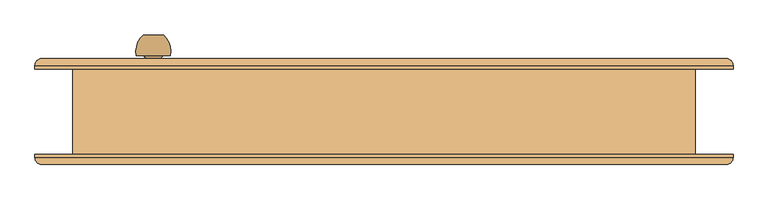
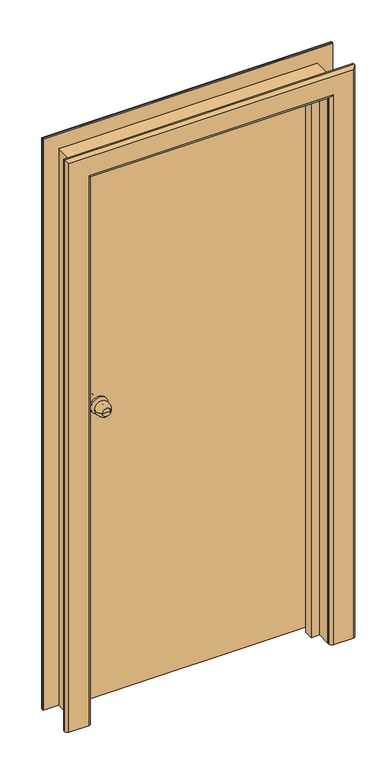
"""IFC4 building model written with IfcOpenShell, lengths in millimetres: door geometry, Внутренняя дверь 1-Навесная - 6629-88 : ДГ 21-9  ГОСТ 6629-88."""

from ifc_helpers import new_model, si_unit, point, frame, origin, place, context, project, spatial, polyline, circle_curve, ellipse_curve, trimmed, outline, extrude, faceted_brep, source, transform, mapped, element, save
from ifc_brep_helpers import plane_surface, cylinder_surface, revolved_surface, advanced_brep


def door_276684d3(model_context):
    return source(origin(), model_context, "Body", "SolidModel", [
        advanced_brep(
        [(-322.0, 112.5, 1100.0), (-337.0, 112.5, 1100.0), (-352.0, 112.5, 1100.0), (-362.0, 82.5, 1100.0), (-312.0, 82.5, 1100.0), (-355.0, 82.5, 1100.0), (-319.0, 82.5, 1100.0), (-347.0, 74.5, 1100.0), (-327.0, 74.5, 1100.0), (-347.0, 68.5, 1100.0), (-327.0, 68.5, 1100.0), (-367.0, 68.5, 1100.0), (-307.0, 68.5, 1100.0), (-367.0, 62.5, 1100.0), (-307.0, 62.5, 1100.0)],
        [
            (0, 1),
            (1, 2),
            (2, 0, circle_curve(frame((-337.0, 112.5, 1100.0), z_axis=(0.0, 1.0, 0.0), x_axis=(-1.0, 0.0, 0.0)), 15.0)),
            (0, 2, circle_curve(frame((-337.0, 112.5, 1100.0), z_axis=(0.0, 1.0, 0.0), x_axis=(-1.0, 0.0, 0.0)), 15.0)),
            (2, 3, circle_curve(frame((-327.3773735, 87.6257912, 1100.0), z_axis=(0.0, 0.0, 1.0), x_axis=(1.0, 0.0, 0.0)), 35.0)),
            (3, 4, circle_curve(frame((-337.0, 82.5, 1100.0), z_axis=(0.0, 1.0, 0.0), x_axis=(-1.0, 0.0, 0.0)), 25.0)),
            (4, 0, circle_curve(frame((-346.6226265, 87.6257912, 1100.0), z_axis=(0.0, 0.0, 1.0), x_axis=(-1.0, 0.0, 0.0)), 35.0)),
            (4, 3, circle_curve(frame((-337.0, 82.5, 1100.0), z_axis=(0.0, 1.0, 0.0), x_axis=(-1.0, 0.0, 0.0)), 25.0)),
            (3, 5),
            (5, 6, circle_curve(frame((-337.0, 82.5, 1100.0), z_axis=(0.0, 1.0, 0.0), x_axis=(-1.0, 0.0, 0.0)), 18.0)),
            (6, 4),
            (6, 5, circle_curve(frame((-337.0, 82.5, 1100.0), z_axis=(0.0, 1.0, 0.0), x_axis=(-1.0, 0.0, 0.0)), 18.0)),
            (5, 7, circle_curve(frame((-355.0, 74.5, 1100.0), z_axis=(0.0, 0.0, -1.0), x_axis=(1.0, 0.0, 0.0)), 8.0)),
            (7, 8, circle_curve(frame((-337.0, 74.5, 1100.0), z_axis=(0.0, 1.0, 0.0), x_axis=(-1.0, 0.0, 0.0)), 10.0)),
            (8, 6, circle_curve(frame((-319.0, 74.5, 1100.0), z_axis=(0.0, 0.0, -1.0), x_axis=(-1.0, 0.0, 0.0)), 8.0)),
            (8, 7, circle_curve(frame((-337.0, 74.5, 1100.0), z_axis=(0.0, 1.0, 0.0), x_axis=(-1.0, 0.0, 0.0)), 10.0)),
            (7, 9),
            (9, 10, circle_curve(frame((-337.0, 68.5, 1100.0), z_axis=(0.0, 1.0, 0.0), x_axis=(-1.0, 0.0, 0.0)), 10.0)),
            (10, 8),
            (10, 9, circle_curve(frame((-337.0, 68.5, 1100.0), z_axis=(0.0, 1.0, 0.0), x_axis=(-1.0, 0.0, 0.0)), 10.0)),
            (11, 12, circle_curve(frame((-337.0, 68.5, 1100.0), z_axis=(0.0, 1.0, 0.0), x_axis=(1.0, 0.0, 0.0)), 30.0)),
            (12, 11, circle_curve(frame((-337.0, 68.5, 1100.0), z_axis=(0.0, 1.0, 0.0), x_axis=(1.0, 0.0, 0.0)), 30.0)),
            (13, 14, circle_curve(frame((-337.0, 62.5, 1100.0), z_axis=(0.0, -1.0, 0.0), x_axis=(1.0, 0.0, 0.0)), 30.0)),
            (14, 13, circle_curve(frame((-337.0, 62.5, 1100.0), z_axis=(0.0, -1.0, 0.0), x_axis=(1.0, 0.0, 0.0)), 30.0)),
            (12, 14),
            (13, 11),
        ],
        [
            plane_surface(frame((-337.0, 112.5, 1100.0), z_axis=(0.0, 1.0, 0.0), x_axis=(-1.0, 0.0, 0.0))),
            revolved_surface(trimmed(ellipse_curve(frame((-327.3773735, 87.6257912, 1100.0), z_axis=(0.0, 0.0, 1.0), x_axis=(1.0, 0.0, 0.0)), 35.0, 35.0), [point((-352.0, 112.5, 1100.0))], [point((-362.0, 82.5, 1100.0))], True, "CARTESIAN"), (-337.0, 142.5, 1100.0), (0.0, -1.0, 0.0)),
            plane_surface(frame((-337.0, 82.5, 1100.0), z_axis=(0.0, -1.0, 0.0), x_axis=(-1.0, 0.0, 0.0))),
            revolved_surface(trimmed(ellipse_curve(frame((-355.0, 74.5, 1100.0), z_axis=(0.0, 0.0, -1.0), x_axis=(1.0, 0.0, 0.0)), 8.0, 8.0), [point((-355.0, 82.5, 1100.0))], [point((-347.0, 74.5, 1100.0))], True, "CARTESIAN"), (-337.0, 142.5, 1100.0), (0.0, -1.0, 0.0)),
            cylinder_surface(frame((-337.0, 142.5, 1100.0), z_axis=(0.0, -1.0, 0.0), x_axis=(-1.0, 0.0, 0.0)), 10.0),
            plane_surface(frame((-307.0, 68.5, 1100.0), z_axis=(0.0, 1.0, 0.0), x_axis=(0.0, 0.0, 1.0))),
            plane_surface(frame((-307.0, 62.5, 1100.0), z_axis=(0.0, -1.0, 0.0), x_axis=(0.0, 0.0, -1.0))),
            cylinder_surface(frame((-337.0, 62.5, 1100.0), z_axis=(0.0, 1.0, 0.0), x_axis=(1.0, 0.0, 0.0)), 30.0),
        ],
        [
            (0, [[1, 2, 3]]),
            (0, [[-1, 4, -2]]),
            (1, [[5, 6, 7, -3]]),
            (1, [[-7, 8, -5, -4]]),
            (2, [[9, 10, 11, -6]]),
            (2, [[-11, 12, -9, -8]]),
            (3, [[13, 14, 15, -10]]),
            (3, [[-15, 16, -13, -12]]),
            (4, [[17, 18, 19, -14]]),
            (4, [[-19, 20, -17, -16]]),
            (5, [[21, 22], [-20, -18]]),
            (6, [[23, 24]]),
            (7, [[25, -23, 26, -22]]),
            (7, [[-26, -24, -25, -21]]),
        ],
    ),
        advanced_brep(
        [(-352.0, -24.5, 1100.0), (-337.0, -24.5, 1100.0), (-322.0, -24.5, 1100.0), (-312.0, 5.5, 1100.0), (-362.0, 5.5, 1100.0), (-319.0, 5.5, 1100.0), (-355.0, 5.5, 1100.0), (-327.0, 13.5, 1100.0), (-347.0, 13.5, 1100.0), (-327.0, 19.5, 1100.0), (-347.0, 19.5, 1100.0), (-307.0, 19.5, 1100.0), (-367.0, 19.5, 1100.0), (-307.0, 25.5, 1100.0), (-367.0, 25.5, 1100.0)],
        [
            (0, 1),
            (1, 2),
            (2, 0, circle_curve(frame((-337.0, -24.5, 1100.0), z_axis=(0.0, -1.0, 0.0), x_axis=(1.0, 0.0, 0.0)), 15.0)),
            (0, 2, circle_curve(frame((-337.0, -24.5, 1100.0), z_axis=(0.0, -1.0, 0.0), x_axis=(1.0, 0.0, 0.0)), 15.0)),
            (2, 3, circle_curve(frame((-346.6226265, 0.3742088, 1100.0), z_axis=(0.0, 0.0, 1.0), x_axis=(-1.0, 0.0, 0.0)), 35.0)),
            (3, 4, circle_curve(frame((-337.0, 5.5, 1100.0), z_axis=(0.0, -1.0, 0.0), x_axis=(1.0, 0.0, 0.0)), 25.0)),
            (4, 0, circle_curve(frame((-327.3773735, 0.3742088, 1100.0), z_axis=(0.0, 0.0, 1.0), x_axis=(1.0, 0.0, 0.0)), 35.0)),
            (4, 3, circle_curve(frame((-337.0, 5.5, 1100.0), z_axis=(0.0, -1.0, 0.0), x_axis=(1.0, 0.0, 0.0)), 25.0)),
            (3, 5),
            (5, 6, circle_curve(frame((-337.0, 5.5, 1100.0), z_axis=(0.0, -1.0, 0.0), x_axis=(1.0, 0.0, 0.0)), 18.0)),
            (6, 4),
            (6, 5, circle_curve(frame((-337.0, 5.5, 1100.0), z_axis=(0.0, -1.0, 0.0), x_axis=(1.0, 0.0, 0.0)), 18.0)),
            (5, 7, circle_curve(frame((-319.0, 13.5, 1100.0), z_axis=(0.0, 0.0, -1.0), x_axis=(-1.0, 0.0, 0.0)), 8.0)),
            (7, 8, circle_curve(frame((-337.0, 13.5, 1100.0), z_axis=(0.0, -1.0, 0.0), x_axis=(1.0, 0.0, 0.0)), 10.0)),
            (8, 6, circle_curve(frame((-355.0, 13.5, 1100.0), z_axis=(0.0, 0.0, -1.0), x_axis=(1.0, 0.0, 0.0)), 8.0)),
            (8, 7, circle_curve(frame((-337.0, 13.5, 1100.0), z_axis=(0.0, -1.0, 0.0), x_axis=(1.0, 0.0, 0.0)), 10.0)),
            (7, 9),
            (9, 10, circle_curve(frame((-337.0, 19.5, 1100.0), z_axis=(0.0, -1.0, 0.0), x_axis=(1.0, 0.0, 0.0)), 10.0)),
            (10, 8),
            (10, 9, circle_curve(frame((-337.0, 19.5, 1100.0), z_axis=(0.0, -1.0, 0.0), x_axis=(1.0, 0.0, 0.0)), 10.0)),
            (11, 12, circle_curve(frame((-337.0, 19.5, 1100.0), z_axis=(0.0, -1.0, 0.0), x_axis=(-1.0, 0.0, 0.0)), 30.0)),
            (12, 11, circle_curve(frame((-337.0, 19.5, 1100.0), z_axis=(0.0, -1.0, 0.0), x_axis=(-1.0, 0.0, 0.0)), 30.0)),
            (13, 14, circle_curve(frame((-337.0, 25.5, 1100.0), z_axis=(0.0, 1.0, 0.0), x_axis=(-1.0, 0.0, 0.0)), 30.0)),
            (14, 13, circle_curve(frame((-337.0, 25.5, 1100.0), z_axis=(0.0, 1.0, 0.0), x_axis=(-1.0, 0.0, 0.0)), 30.0)),
            (12, 14),
            (13, 11),
        ],
        [
            plane_surface(frame((-337.0, -24.5, 1100.0), z_axis=(0.0, -1.0, 0.0), x_axis=(1.0, 0.0, 0.0))),
            revolved_surface(trimmed(ellipse_curve(frame((-346.6226265, 0.3742088, 1100.0), z_axis=(0.0, 0.0, 1.0), x_axis=(-1.0, 0.0, 0.0)), 35.0, 35.0), [point((-322.0, -24.5, 1100.0))], [point((-312.0, 5.5, 1100.0))], True, "CARTESIAN"), (-337.0, -54.5, 1100.0), (0.0, 1.0, 0.0)),
            plane_surface(frame((-337.0, 5.5, 1100.0), z_axis=(0.0, 1.0, 0.0), x_axis=(1.0, 0.0, 0.0))),
            revolved_surface(trimmed(ellipse_curve(frame((-319.0, 13.5, 1100.0), z_axis=(0.0, 0.0, -1.0), x_axis=(-1.0, 0.0, 0.0)), 8.0, 8.0), [point((-319.0, 5.5, 1100.0))], [point((-327.0, 13.5, 1100.0))], True, "CARTESIAN"), (-337.0, -54.5, 1100.0), (0.0, 1.0, 0.0)),
            cylinder_surface(frame((-337.0, -54.5, 1100.0), z_axis=(0.0, 1.0, 0.0), x_axis=(1.0, 0.0, 0.0)), 10.0),
            plane_surface(frame((-367.0, 19.5, 1100.0), z_axis=(0.0, -1.0, 0.0), x_axis=(0.0, 0.0, 1.0))),
            plane_surface(frame((-367.0, 25.5, 1100.0), z_axis=(0.0, 1.0, 0.0), x_axis=(0.0, 0.0, -1.0))),
            cylinder_surface(frame((-337.0, 25.5, 1100.0), z_axis=(0.0, -1.0, 0.0), x_axis=(-1.0, 0.0, 0.0)), 30.0),
        ],
        [
            (0, [[1, 2, 3]]),
            (0, [[-1, 4, -2]]),
            (1, [[5, 6, 7, -3]]),
            (1, [[-7, 8, -5, -4]]),
            (2, [[9, 10, 11, -6]]),
            (2, [[-11, 12, -9, -8]]),
            (3, [[13, 14, 15, -10]]),
            (3, [[-15, 16, -13, -12]]),
            (4, [[17, 18, 19, -14]]),
            (4, [[-19, 20, -17, -16]]),
            (5, [[21, 22], [-20, -18]]),
            (6, [[23, 24]]),
            (7, [[25, -23, 26, -22]]),
            (7, [[-26, -24, -25, -21]]),
        ],
    ),
        extrude(outline(polyline([(0.0, 435.0), (2050.0, 435.0), (2050.0, -435.0), (0.0, -435.0), (0.0, -420.0), (2035.0, -420.0), (2035.0, 420.0), (0.0, 420.0), (0.0, 435.0)])), frame((0.0, -62.5, 0.0), z_axis=(0.0, 1.0, 0.0), x_axis=(0.0, 0.0, 1.0)), (0.0, 0.0, 1.0), 51.0),
        advanced_brep(
        [(-510.0, 62.5, 0.0), (-510.0, 67.5, 0.0), (-500.0, 77.5, 0.0), (-430.0, 77.5, 0.0), (-420.0, 67.5, 0.0), (-420.0, 62.5, 0.0), (-420.0, 62.5, 2035.0), (420.0, 62.5, 2035.0), (420.0, 62.5, 0.0), (510.0, 62.5, 0.0), (510.0, 62.5, 2125.0), (-510.0, 62.5, 2125.0), (-420.0, 67.5, 2035.0), (-430.0, 77.5, 2045.0), (-500.0, 77.5, 2115.0), (500.0, 77.5, 2115.0), (500.0, 77.5, 0.0), (430.0, 77.5, 0.0), (430.0, 77.5, 2045.0), (-510.0, 67.5, 2125.0), (510.0, 67.5, 0.0), (510.0, 67.5, 2125.0), (420.0, 67.5, 0.0), (420.0, 67.5, 2035.0)],
        [
            (0, 1),
            (1, 2, circle_curve(frame((-500.0, 67.5, 0.0), z_axis=(0.0, 0.0, -1.0), x_axis=(-1.0, 0.0, 0.0)), 10.0)),
            (2, 3),
            (3, 4, circle_curve(frame((-430.0, 67.5, 0.0), z_axis=(0.0, 0.0, -1.0), x_axis=(-1.0, 0.0, 0.0)), 10.0)),
            (4, 5),
            (5, 0),
            (5, 6),
            (6, 7),
            (7, 8),
            (8, 9),
            (9, 10),
            (10, 11),
            (11, 0),
            (4, 12),
            (12, 6),
            (3, 13),
            (13, 12, ellipse_curve(frame((-430.0, 67.5, 2045.0), z_axis=(-0.7071067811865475, 0.0, -0.7071067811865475), x_axis=(0.7071067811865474, 0.0, -0.7071067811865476)), 14.1421356, 10.0)),
            (2, 14),
            (14, 15),
            (15, 16),
            (16, 17),
            (17, 18),
            (18, 13),
            (1, 19),
            (19, 14, ellipse_curve(frame((-500.0, 67.5, 2115.0), z_axis=(-0.7071067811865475, 0.0, -0.7071067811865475), x_axis=(0.7071067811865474, 0.0, -0.7071067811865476)), 14.1421356, 10.0)),
            (11, 19),
            (9, 20),
            (20, 21),
            (21, 10),
            (8, 22),
            (22, 17, circle_curve(frame((430.0, 67.5, 0.0), z_axis=(0.0, 0.0, -1.0), x_axis=(1.0, 0.0, 0.0)), 10.0)),
            (16, 20, circle_curve(frame((500.0, 67.5, 0.0), z_axis=(0.0, 0.0, -1.0), x_axis=(1.0, 0.0, 0.0)), 10.0)),
            (23, 22),
            (7, 23),
            (23, 18, ellipse_curve(frame((430.0, 67.5, 2045.0), z_axis=(0.7071067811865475, 0.0, -0.7071067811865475), x_axis=(0.7071067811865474, 0.0, 0.7071067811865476)), 14.1421356, 10.0)),
            (15, 21, ellipse_curve(frame((500.0, 67.5, 2115.0), z_axis=(0.7071067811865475, 0.0, -0.7071067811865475), x_axis=(0.7071067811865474, 0.0, 0.7071067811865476)), 14.1421356, 10.0)),
            (12, 23),
            (19, 21),
        ],
        [
            plane_surface(frame((-455.0, 62.5, 0.0), z_axis=(0.0, 0.0, -1.0), x_axis=(0.0, -1.0, 0.0))),
            plane_surface(frame((-510.0, 62.5, 0.0), z_axis=(0.0, -1.0, 0.0), x_axis=(0.0, 0.0, 1.0))),
            plane_surface(frame((-420.0, 62.5, 0.0), z_axis=(1.0, 0.0, 0.0), x_axis=(0.0, 0.0, 1.0))),
            cylinder_surface(frame((-430.0, 67.5, 0.0), z_axis=(0.0, 0.0, -1.0), x_axis=(-1.0, 0.0, 0.0)), 10.0),
            plane_surface(frame((-430.0, 77.5, 0.0), z_axis=(0.0, 1.0, 0.0), x_axis=(0.0, 0.0, 1.0))),
            cylinder_surface(frame((-500.0, 67.5, 0.0), z_axis=(0.0, 0.0, -1.0), x_axis=(-1.0, 0.0, 0.0)), 10.0),
            plane_surface(frame((-510.0, 67.5, 0.0), z_axis=(-1.0, 0.0, 0.0), x_axis=(0.0, 0.0, 1.0))),
            plane_surface(frame((510.0, 67.5, 2125.0), z_axis=(1.0, 0.0, 0.0), x_axis=(0.0, 0.0, -1.0))),
            plane_surface(frame((455.0, 62.5, 0.0), z_axis=(0.0, 0.0, -1.0), x_axis=(0.0, -1.0, 0.0))),
            plane_surface(frame((420.0, 62.5, 2035.0), z_axis=(-1.0, 0.0, 0.0), x_axis=(0.0, 0.0, -1.0))),
            cylinder_surface(frame((430.0, 67.5, 2070.0), z_axis=(0.0, 0.0, 1.0), x_axis=(1.0, 0.0, 0.0)), 10.0),
            cylinder_surface(frame((500.0, 67.5, 2070.0), z_axis=(0.0, 0.0, 1.0), x_axis=(1.0, 0.0, 0.0)), 10.0),
            plane_surface(frame((-420.0, 62.5, 2035.0), z_axis=(0.0, 0.0, -1.0), x_axis=(1.0, 0.0, 0.0))),
            cylinder_surface(frame((-455.0, 67.5, 2045.0), z_axis=(-1.0, 0.0, 0.0), x_axis=(0.0, 0.0, 1.0)), 10.0),
            cylinder_surface(frame((-455.0, 67.5, 2115.0), z_axis=(-1.0, 0.0, 0.0), x_axis=(0.0, 0.0, 1.0)), 10.0),
            plane_surface(frame((-510.0, 67.5, 2125.0), z_axis=(0.0, 0.0, 1.0), x_axis=(1.0, 0.0, 0.0))),
        ],
        [
            (0, [[1, 2, 3, 4, 5, 6]]),
            (1, [[7, 8, 9, 10, 11, 12, 13, -6]]),
            (2, [[14, 15, -7, -5]]),
            (3, [[16, 17, -14, -4]]),
            (4, [[18, 19, 20, 21, 22, 23, -16, -3]]),
            (5, [[24, 25, -18, -2]]),
            (6, [[-13, 26, -24, -1]]),
            (7, [[-11, 27, 28, 29]]),
            (8, [[-10, 30, 31, -21, 32, -27]]),
            (9, [[33, -30, -9, 34]]),
            (10, [[-22, -31, -33, 35]]),
            (11, [[-28, -32, -20, 36]]),
            (12, [[37, -34, -8, -15]]),
            (13, [[-23, -35, -37, -17]]),
            (14, [[38, -36, -19, -25]]),
            (15, [[-12, -29, -38, -26]]),
        ],
    ),
        advanced_brep(
        [(510.0, -62.5, 0.0), (510.0, -67.5, 0.0), (500.0, -77.5, 0.0), (430.0, -77.5, 0.0), (420.0, -67.5, 0.0), (420.0, -62.5, 0.0), (420.0, -62.5, 2035.0), (-420.0, -62.5, 2035.0), (-420.0, -62.5, 0.0), (-510.0, -62.5, 0.0), (-510.0, -62.5, 2125.0), (510.0, -62.5, 2125.0), (420.0, -67.5, 2035.0), (430.0, -77.5, 2045.0), (500.0, -77.5, 2115.0), (-500.0, -77.5, 2115.0), (-500.0, -77.5, 0.0), (-430.0, -77.5, 0.0), (-430.0, -77.5, 2045.0), (510.0, -67.5, 2125.0), (-510.0, -67.5, 0.0), (-510.0, -67.5, 2125.0), (-420.0, -67.5, 0.0), (-420.0, -67.5, 2035.0)],
        [
            (0, 1),
            (1, 2, circle_curve(frame((500.0, -67.5, 0.0), z_axis=(0.0, 0.0, -1.0), x_axis=(1.0, 0.0, 0.0)), 10.0)),
            (2, 3),
            (3, 4, circle_curve(frame((430.0, -67.5, 0.0), z_axis=(0.0, 0.0, -1.0), x_axis=(1.0, 0.0, 0.0)), 10.0)),
            (4, 5),
            (5, 0),
            (5, 6),
            (6, 7),
            (7, 8),
            (8, 9),
            (9, 10),
            (10, 11),
            (11, 0),
            (4, 12),
            (12, 6),
            (3, 13),
            (13, 12, ellipse_curve(frame((430.0, -67.5, 2045.0), z_axis=(0.7071067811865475, 0.0, -0.7071067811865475), x_axis=(-0.7071067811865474, 0.0, -0.7071067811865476)), 14.1421356, 10.0)),
            (2, 14),
            (14, 15),
            (15, 16),
            (16, 17),
            (17, 18),
            (18, 13),
            (1, 19),
            (19, 14, ellipse_curve(frame((500.0, -67.5, 2115.0), z_axis=(0.7071067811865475, 0.0, -0.7071067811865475), x_axis=(-0.7071067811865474, 0.0, -0.7071067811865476)), 14.1421356, 10.0)),
            (11, 19),
            (9, 20),
            (20, 21),
            (21, 10),
            (8, 22),
            (22, 17, circle_curve(frame((-430.0, -67.5, 0.0), z_axis=(0.0, 0.0, -1.0), x_axis=(-1.0, 0.0, 0.0)), 10.0)),
            (16, 20, circle_curve(frame((-500.0, -67.5, 0.0), z_axis=(0.0, 0.0, -1.0), x_axis=(-1.0, 0.0, 0.0)), 10.0)),
            (23, 22),
            (7, 23),
            (23, 18, ellipse_curve(frame((-430.0, -67.5, 2045.0), z_axis=(-0.7071067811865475, 0.0, -0.7071067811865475), x_axis=(-0.7071067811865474, 0.0, 0.7071067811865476)), 14.1421356, 10.0)),
            (15, 21, ellipse_curve(frame((-500.0, -67.5, 2115.0), z_axis=(-0.7071067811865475, 0.0, -0.7071067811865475), x_axis=(-0.7071067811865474, 0.0, 0.7071067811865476)), 14.1421356, 10.0)),
            (12, 23),
            (19, 21),
        ],
        [
            plane_surface(frame((455.0, -62.5, 0.0), z_axis=(0.0, 0.0, -1.0), x_axis=(0.0, 1.0, 0.0))),
            plane_surface(frame((510.0, -62.5, 0.0), z_axis=(0.0, 1.0, 0.0), x_axis=(0.0, 0.0, 1.0))),
            plane_surface(frame((420.0, -62.5, 0.0), z_axis=(-1.0, 0.0, 0.0), x_axis=(0.0, 0.0, 1.0))),
            cylinder_surface(frame((430.0, -67.5, 0.0), z_axis=(0.0, 0.0, -1.0), x_axis=(1.0, 0.0, 0.0)), 10.0),
            plane_surface(frame((430.0, -77.5, 0.0), z_axis=(0.0, -1.0, 0.0), x_axis=(0.0, 0.0, 1.0))),
            cylinder_surface(frame((500.0, -67.5, 0.0), z_axis=(0.0, 0.0, -1.0), x_axis=(1.0, 0.0, 0.0)), 10.0),
            plane_surface(frame((510.0, -67.5, 0.0), z_axis=(1.0, 0.0, 0.0), x_axis=(0.0, 0.0, 1.0))),
            plane_surface(frame((-510.0, -67.5, 2125.0), z_axis=(-1.0, 0.0, 0.0), x_axis=(0.0, 0.0, -1.0))),
            plane_surface(frame((-455.0, -62.5, 0.0), z_axis=(0.0, 0.0, -1.0), x_axis=(0.0, 1.0, 0.0))),
            plane_surface(frame((-420.0, -62.5, 2035.0), z_axis=(1.0, 0.0, 0.0), x_axis=(0.0, 0.0, -1.0))),
            cylinder_surface(frame((-430.0, -67.5, 2070.0), z_axis=(0.0, 0.0, 1.0), x_axis=(-1.0, 0.0, 0.0)), 10.0),
            cylinder_surface(frame((-500.0, -67.5, 2070.0), z_axis=(0.0, 0.0, 1.0), x_axis=(-1.0, 0.0, 0.0)), 10.0),
            plane_surface(frame((420.0, -62.5, 2035.0), z_axis=(0.0, 0.0, -1.0), x_axis=(-1.0, 0.0, 0.0))),
            cylinder_surface(frame((455.0, -67.5, 2045.0), z_axis=(1.0, 0.0, 0.0), x_axis=(0.0, 0.0, 1.0)), 10.0),
            cylinder_surface(frame((455.0, -67.5, 2115.0), z_axis=(1.0, 0.0, 0.0), x_axis=(0.0, 0.0, 1.0)), 10.0),
            plane_surface(frame((510.0, -67.5, 2125.0), z_axis=(0.0, 0.0, 1.0), x_axis=(-1.0, 0.0, 0.0))),
        ],
        [
            (0, [[1, 2, 3, 4, 5, 6]]),
            (1, [[7, 8, 9, 10, 11, 12, 13, -6]]),
            (2, [[14, 15, -7, -5]]),
            (3, [[16, 17, -14, -4]]),
            (4, [[18, 19, 20, 21, 22, 23, -16, -3]]),
            (5, [[24, 25, -18, -2]]),
            (6, [[-13, 26, -24, -1]]),
            (7, [[-11, 27, 28, 29]]),
            (8, [[-10, 30, 31, -21, 32, -27]]),
            (9, [[33, -30, -9, 34]]),
            (10, [[-22, -31, -33, 35]]),
            (11, [[-28, -32, -20, 36]]),
            (12, [[37, -34, -8, -15]]),
            (13, [[-23, -35, -37, -17]]),
            (14, [[38, -36, -19, -25]]),
            (15, [[-12, -29, -38, -26]]),
        ],
    ),
        faceted_brep([(390.0, -11.5, 0.0), (390.0, 20.5, 0.0), (402.0, 20.5, 0.0), (402.0, 62.5, 0.0), (435.0, 62.5, 0.0), (435.0, -11.5, 0.0), (435.0, -11.5, 2050.0), (-435.0, -11.5, 2050.0), (-435.0, -11.5, 0.0), (-390.0, -11.5, 0.0), (-390.0, -11.5, 2005.0), (390.0, -11.5, 2005.0), (435.0, 62.5, 2050.0), (402.0, 62.5, 2017.0), (-402.0, 62.5, 2017.0), (-402.0, 62.5, 0.0), (-435.0, 62.5, 0.0), (-435.0, 62.5, 2050.0), (402.0, 20.5, 2017.0), (390.0, 20.5, 2005.0), (-390.0, 20.5, 2005.0), (-390.0, 20.5, 0.0), (-402.0, 20.5, 0.0), (-402.0, 20.5, 2017.0)], [[[0, 1, 2, 3, 4, 5]], [[5, 6, 7, 8, 9, 10, 11, 0]], [[4, 12, 6, 5]], [[3, 13, 14, 15, 16, 17, 12, 4]], [[2, 18, 13, 3]], [[1, 19, 20, 21, 22, 23, 18, 2]], [[0, 11, 19, 1]], [[10, 9, 21, 20]], [[9, 8, 16, 15, 22, 21]], [[17, 16, 8, 7]], [[23, 22, 15, 14]], [[12, 17, 7, 6]], [[18, 23, 14, 13]], [[11, 10, 20, 19]]]),
        extrude(outline(polyline([(0.0, 455.0), (2070.0, 455.0), (2070.0, -455.0), (0.0, -455.0), (0.0, -435.0), (2050.0, -435.0), (2050.0, 435.0), (0.0, 435.0), (0.0, 455.0)])), frame((0.0, -62.5, 0.0), z_axis=(0.0, 1.0, 0.0), x_axis=(0.0, 0.0, 1.0)), (0.0, 0.0, 1.0), 125.0),
        extrude(outline(polyline([(397.0, 25.5), (-397.0, 25.5), (-397.0, 62.5), (397.0, 62.5), (397.0, 25.5)])), frame((0.0, 0.0, 15.0), z_axis=(0.0, 0.0, 1.0), x_axis=(1.0, 0.0, 0.0)), (0.0, 0.0, 1.0), 1997.0),
    ])


if __name__ == "__main__":
    model = new_model("IFC4")
    model_context = context("Model", 3, world=origin())
    ifc_project = project(units=[si_unit("LENGTHUNIT", "METRE", prefix="MILLI")], contexts=[model_context])
    site = spatial("IfcSite", under=ifc_project)
    building = spatial("IfcBuilding", under=site)
    placement = place(None, origin())
    door_shape = door_276684d3(model_context)
    element("IfcDoor", 1, ObjectType="Внутренняя дверь 1-Навесная - 6629-88 : ДГ 21-9  ГОСТ 6629-88", at=placement, inside=building, context=model_context, shape_type="MappedRepresentation", body=[
        mapped(door_shape, transform((0.0, 0.0, 0.0), x_axis=(1.0, 0.0, 0.0), y_axis=(0.0, 1.0, 0.0), z_axis=(0.0, 0.0, 1.0))),
    ])
    save(model, "model.ifc")
